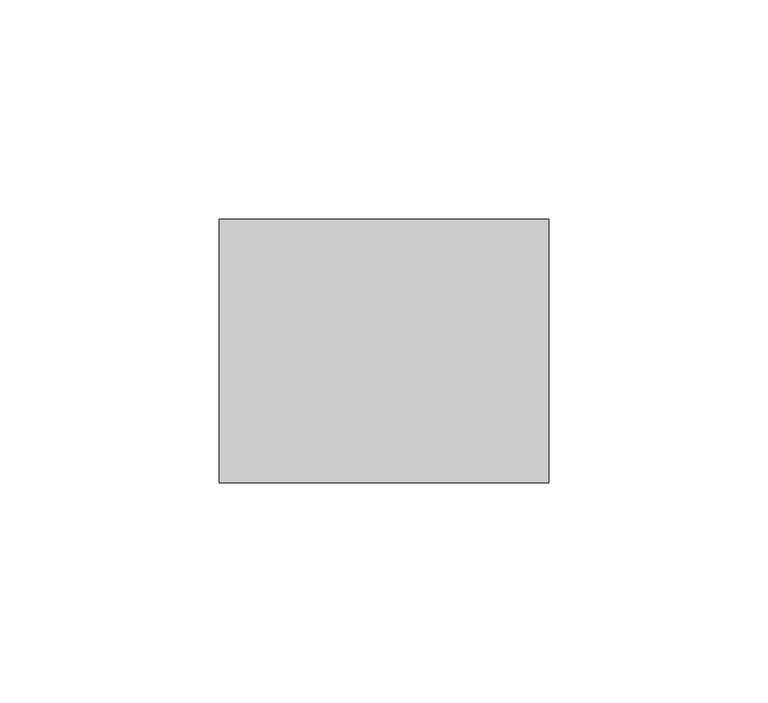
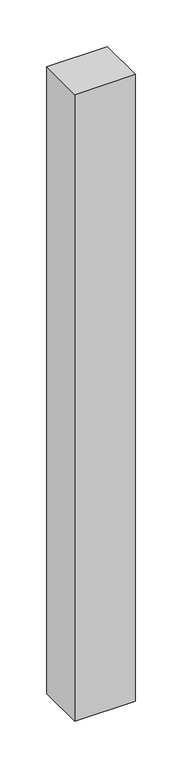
"""IFC4 building model written with IfcOpenShell, lengths in millimetres: proxy geometry, Брус : 60х75."""

from ifc_helpers import new_model, si_unit, origin, origin_with_axes, place, context, project, spatial, polyline, outline, extrude, source, transform, mapped, element, save


def generic_models_e5449c6c(model_context):
    return source(origin(), model_context, "Body", "SweptSolid", [
        extrude(outline(polyline([(75.0, 0.0), (0.0, 0.0), (0.0, 60.0), (75.0, 60.0), (75.0, 0.0)])), origin_with_axes(), (0.0, 0.0, 1.0), 820.0),
    ])


if __name__ == "__main__":
    model = new_model("IFC4")
    model_context = context("Model", 3, world=origin())
    ifc_project = project(units=[si_unit("LENGTHUNIT", "METRE", prefix="MILLI")], contexts=[model_context])
    site = spatial("IfcSite", under=ifc_project)
    building = spatial("IfcBuilding", under=site)
    placement = place(None, origin())
    generic_models_shape = generic_models_e5449c6c(model_context)
    element("IfcBuildingElementProxy", 1, Name="Брус : 60х75", ObjectType="Брус : 60х75", at=placement, inside=building, context=model_context, shape_type="MappedRepresentation", body=[
        mapped(generic_models_shape, transform((0.0, 0.0, 0.0), x_axis=(1.0, 0.0, 0.0), y_axis=(0.0, 1.0, 0.0), z_axis=(0.0, 0.0, 1.0))),
    ])
    save(model, "model.ifc")
